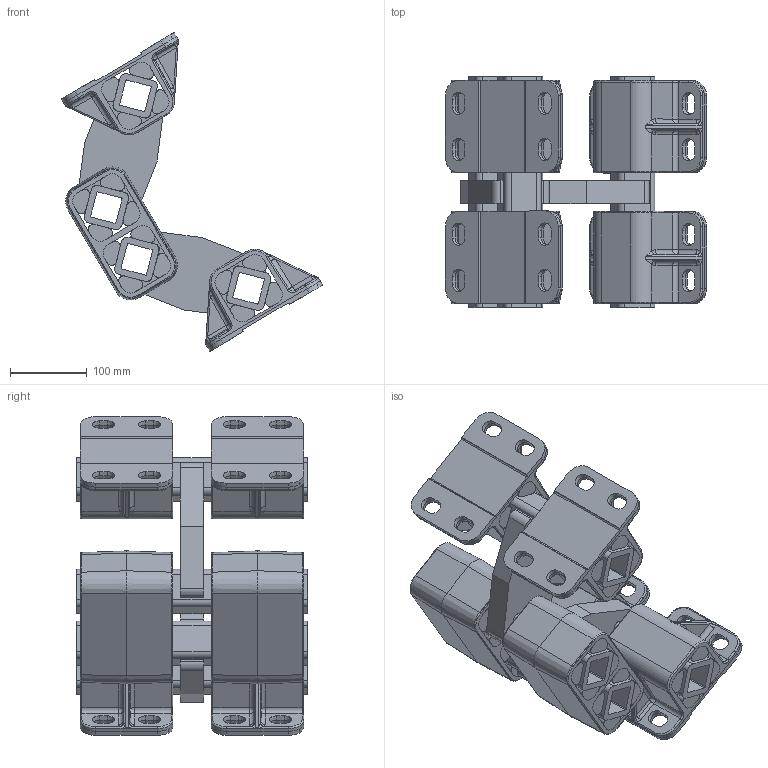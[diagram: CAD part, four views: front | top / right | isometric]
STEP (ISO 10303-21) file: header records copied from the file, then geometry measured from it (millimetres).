
FILE_DESCRIPTION((''),'2;1');
FILE_NAME('\\rostaofc\data\uw\save\daten_f\Normprogramm 3D\Schwingfördertechnologie\AB50-TWIN_07051008.stp','2006-10-24T12:54:39',('uw'),(''),'Autodesk Inventor 8','Autodesk Inventor 8','');
FILE_SCHEMA(('AUTOMOTIVE_DESIGN { 1 0 10303 214 1 1 1 1 }'));
Length unit declared in the file: millimetre
Products named in the file (7): ROSTA-Schwingelement AB50x240; Aussengehäuse DO50x120; Innenteil AB50x240; Hebel zu AB50x240; SK2883-003; Gehäuse zu DW50x120; SK2884-001
Assembly tree (43 placements, depth 3):
  ROSTA-Schwingelement AB50x240
    Aussengehäuse DO50x120  x2
    Innenteil AB50x240  x2
      Hebel zu AB50x240
      SK2883-003
    Gehäuse zu DW50x120  x4
    SK2884-001  x32
Bounding box: 339.32 x 300 x 413.83 mm (x, y, z)
Volume: 6719199.5 mm3; surface area: 1479943.1 mm2
Topology: 44 solids, 44 shells, 1108 faces, 2692 edges, 1624 vertices
Faces by surface type: plane 476, cylinder 408, cone 80, bspline 80, torus 64
Entity records: 9408 total; most frequent: CARTESIAN_POINT 2496, DIRECTION 1518, ORIENTED_EDGE 1312, EDGE_CURVE 656, AXIS2_PLACEMENT_3D 570, VERTEX_POINT 396, VECTOR 378, LINE 378
